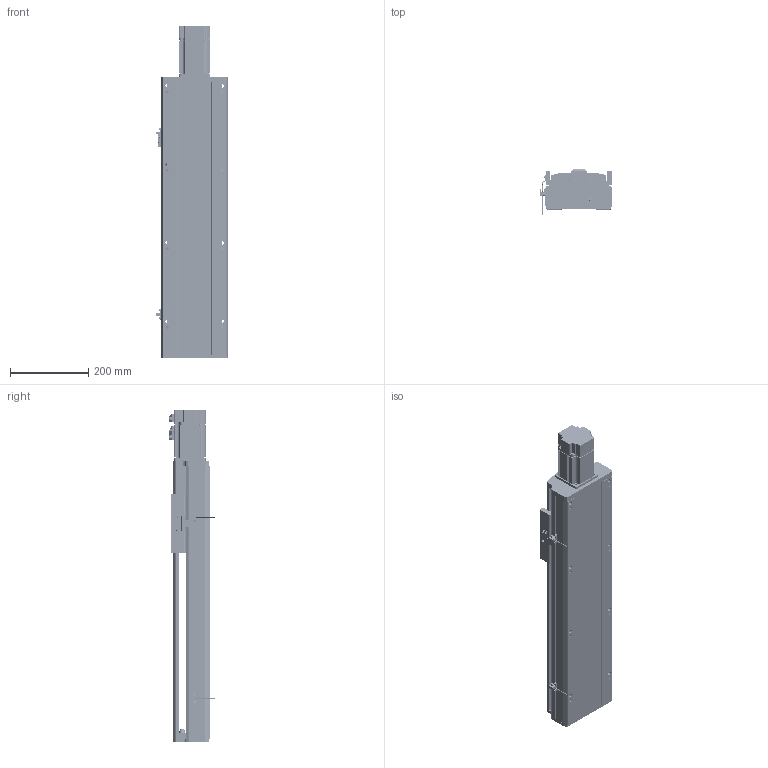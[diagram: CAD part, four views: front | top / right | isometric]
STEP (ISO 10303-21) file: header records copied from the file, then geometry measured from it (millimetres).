
FILE_DESCRIPTION (( 'STEP AP214' ), '1' );
FILE_NAME ('CTH170-450.STEP', '2019-11-25T08:52:35', ( '微软用户' ), ( '微软中国' ), 'SwSTEP 2.0', 'SolidWorks 2017', '' );
FILE_SCHEMA (( 'AUTOMOTIVE_DESIGN' ));
Length unit declared in the file: millimetre
Products named in the file (32): 遣喳蝶15x12x8-BR L; 支撑座^丝杠支撑座_CTH170-L10-200; B6002Z; _C-BSST2005_n; SFS2005-411-SZC; SFH2010佪裝; M3-L8囀鞠褒蹟佪; 80EMA-016A; EE-SX672峚倰換覜ん; 170萇儂啣; CT17耀郪-覜茼んえ; 170傷啣; M6-L20囀鞠褒蹟佪; EGH20CA; 蚾饜极3^CTH170-L10-200; M5-L20囀鞠褒蹟佪-BR L; M4-L10囀鞠褒蹟佪-BR L; M5-L10囀鞠褒蹟佪; 坶踡蹟簽M15x1; EGH20CA_BLOCK; 潔路遠COL15-A; EG20_RAIL; MISUMI_B7002-DB_盄俶絳砃粣; 170賑怢; BEARING_MISUMI_B7002-DB_盄俶絳砃粣; 170裔啣^CTH170-L10-200; 錨璃8^蚾饜极3_CTH170-L10-200; 錨璃2; 复件 轴承座^装配体3_CTH170-L10-200; 佪話盓傅釱^CTH170-L10-200; CTH170-450; M5-L16囀鞠褒蹟佪
Assembly tree (79 placements, depth 4):
  CTH170-450
    錨璃2
    170裔啣^CTH170-L10-200
    170賑怢
    EGH20CA  x2
      EG20_RAIL
      EGH20CA_BLOCK
      M5-L10囀鞠褒蹟佪
      M5-L20囀鞠褒蹟佪-BR L
    170傷啣
    170萇儂啣
    80EMA-016A
    SFS2005-411-SZC
      SFH2010佪裝
    _C-BSST2005_n
    佪話盓傅釱^CTH170-L10-200
      B6002Z
      支撑座^丝杠支撑座_CTH170-L10-200
      遣喳蝶15x12x8-BR L  x2
      M5-L16囀鞠褒蹟佪  x2
    蚾饜极3^CTH170-L10-200
      复件 轴承座^装配体3_CTH170-L10-200
      錨璃8^蚾饜极3_CTH170-L10-200
      MISUMI_B7002-DB_盄俶絳砃粣
        BEARING_MISUMI_B7002-DB_盄俶絳砃粣  x2
      潔路遠COL15-A  x2
      坶踡蹟簽M15x1
      M5-L16囀鞠褒蹟佪  x6
      M4-L10囀鞠褒蹟佪-BR L  x4
    遣喳蝶15x12x8-BR L  x2
    M6-L20囀鞠褒蹟佪  x4
    M4-L10囀鞠褒蹟佪-BR L  x10
    M5-L16囀鞠褒蹟佪  x4
    CT17耀郪-覜茼んえ
    EE-SX672峚倰換覜ん  x2
    M3-L8囀鞠褒蹟佪  x4
Bounding box: 183.7 x 117.95 x 846 mm (x, y, z)
Volume: 5252107.7 mm3; surface area: 1549579 mm2
Topology: 91 solids, 92 shells, 5563 faces, 14565 edges, 9288 vertices
Faces by surface type: plane 3106, cylinder 1454, cone 621, bspline 342, torus 40
Entity records: 98682 total; most frequent: CARTESIAN_POINT 20953, ORIENTED_EDGE 14168, DIRECTION 13795, EDGE_CURVE 7084, AXIS2_PLACEMENT_3D 4788, VERTEX_POINT 4604, VECTOR 4219, LINE 4219
